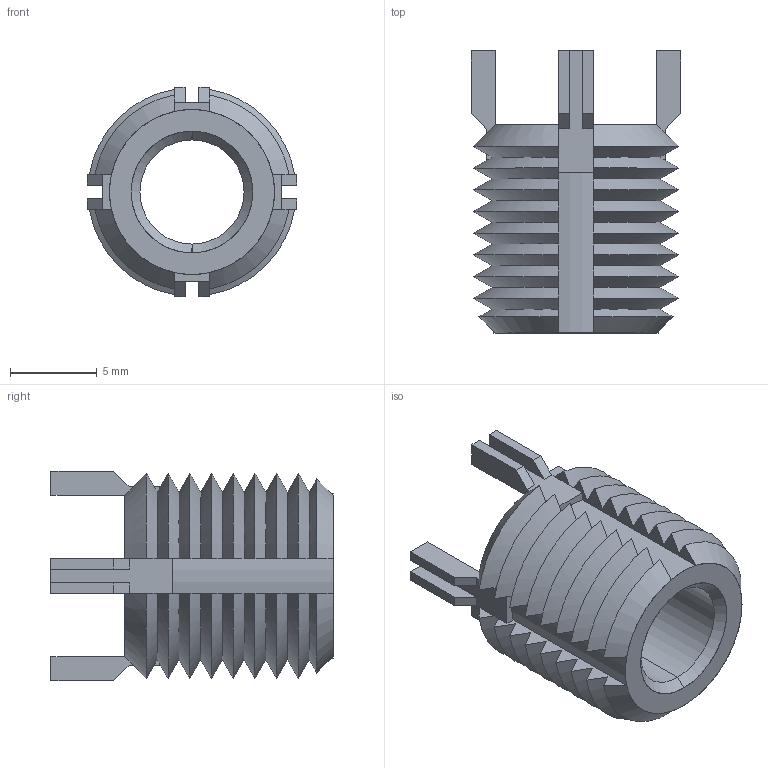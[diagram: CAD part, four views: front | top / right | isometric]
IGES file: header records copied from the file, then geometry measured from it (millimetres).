
Start section: SolidWorks IGES file using analytic representation for surfaces
Global section: file name: C:\Users\liam_\OneDrive\Documents\WORK\Work for WixRoyd\Job Files\J-00028 - Matt Davis CAD - 20191222\Wixroyd20191222\22002_v2\22002_v2_20200104_IGES\22002.W5650.igs; native system: SolidWorks 2017; preprocessor: SolidWorks 2017; author: liam_; date: 200104.213403; units: millimetre
Bounding box: 12.09 x 16.25 x 12.09 mm (x, y, z)
Surface area: 1204.6 mm2 (no closed solid volume)
Topology: 0 solids, 0 shells, 156 faces, 960 edges, 960 vertices
Faces by surface type: revolution 82, bspline 74
